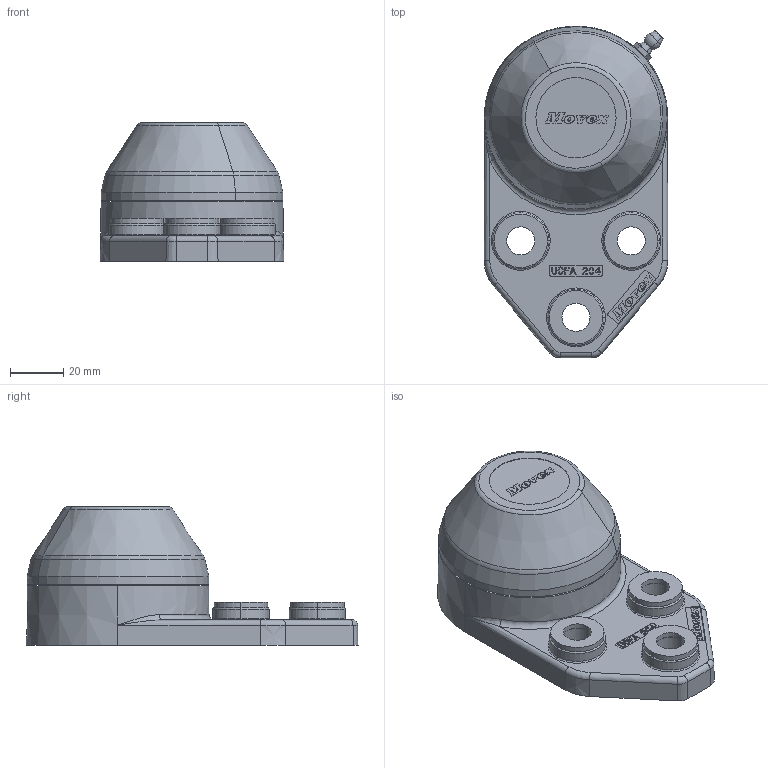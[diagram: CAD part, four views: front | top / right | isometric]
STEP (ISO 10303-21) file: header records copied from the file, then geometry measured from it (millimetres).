
FILE_DESCRIPTION(('STEP AP214'),'1');
FILE_NAME('83600SS','2016-11-17T09:43:51',('dentellad'),(' '),'Spatial InterOp 3D',' ',' ');
FILE_SCHEMA(('automotive_design'));
Length unit declared in the file: millimetre
Products named in the file (24): 1; 2; 3; 4; 5; 6; 7; 8; 9; 10; 11; 12; 13; 14; 15; 16; 17; 18; 19; 20; 21; 22; 23; 24
Bounding box: 68.77 x 124.17 x 51.8 mm (x, y, z)
Volume: 118896.3 mm3; surface area: 63082.8 mm2
Topology: 24 solids, 24 shells, 1463 faces, 4009 edges, 2600 vertices
Faces by surface type: plane 1127, cylinder 133, cone 98, torus 67, sphere 36, bspline 2
Entity records: 78000 total; most frequent: CARTESIAN_POINT 8795, ORIENTED_EDGE 7926, DIRECTION 7419, STYLED_ITEM 5415, PRESENTATION_STYLE_ASSIGNMENT 5415, COLOUR_RGB 5415, EDGE_CURVE 3963, CURVE_STYLE 3928
